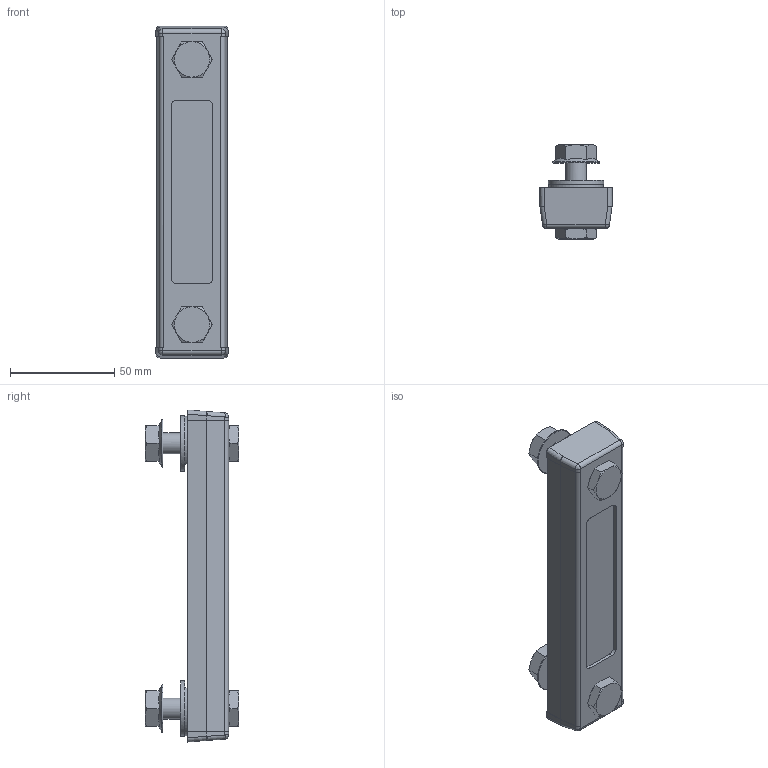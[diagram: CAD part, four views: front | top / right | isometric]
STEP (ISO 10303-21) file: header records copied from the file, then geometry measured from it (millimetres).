
FILE_DESCRIPTION((''),'2;1');
FILE_NAME('U:\Users\a.heinl\Oelstandsanzeiger3516.stp', '2013-05-24T15:35:42',('User'),('SDRC'),'I-DEAS Master Series 9','UNIX', 'Yes');
FILE_SCHEMA(('AUTOMOTIVE_DESIGN { 1 0 10303 214 1 1 1 1 }'));
Length unit declared in the file: millimetre
Products named in the file (1): 13727300(319308)
Bounding box: 34.5 x 45 x 159 mm (x, y, z)
Volume: 110747.1 mm3; surface area: 22929.1 mm2
Topology: 1 solids, 1 shells, 165 faces, 376 edges, 222 vertices
Faces by surface type: bspline 165
Entity records: 4853 total; most frequent: CARTESIAN_POINT 2725, ORIENTED_EDGE 736, EDGE_CURVE 368, VERTEX_POINT 222, EDGE_LOOP 182, FACE_OUTER_BOUND 165, ADVANCED_FACE 165, B_SPLINE_CURVE_WITH_KNOTS 138
